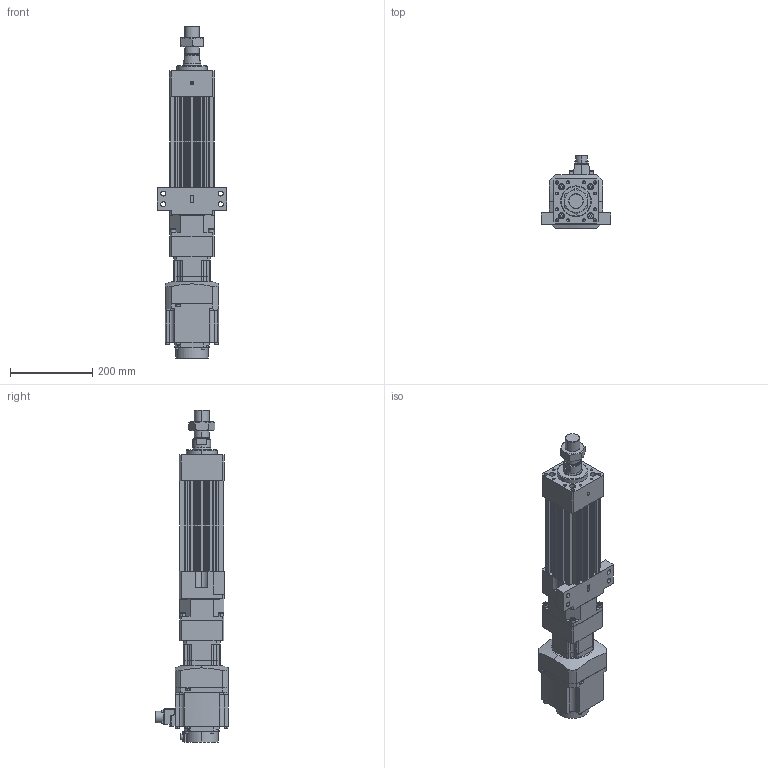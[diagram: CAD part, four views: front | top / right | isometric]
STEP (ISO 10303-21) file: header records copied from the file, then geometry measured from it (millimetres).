
FILE_DESCRIPTION (( 'STEP AP203' ), '1' );
FILE_NAME ('HES110NS(HS)-S050-W010G00-M-FFC.STEP', '2023-01-27T06:14:46', ( 'tms' ), ( '' ), 'SwSTEP 2.0', 'SolidWorks 2013', '' );
FILE_SCHEMA (( 'CONFIG_CONTROL_DESIGN' ));
Length unit declared in the file: millimetre
Products named in the file (8): AB0901; HES110 ROD M ST050; P0401301004; AB090-003[HG-SR102B]; HES110-S050-G090-FFC; HG-SR102; M36X1.5P; HES110NS(HS)-S050-W010G00-M-FFC
Assembly tree (7 placements, depth 3):
  HES110NS(HS)-S050-W010G00-M-FFC
    HES110-S050-G090-FFC
    HES110 ROD M ST050
    M36X1.5P
    AB090-003[HG-SR102B]
      AB0901
      P0401301004
    HG-SR102
Bounding box: 170 x 177.49 x 808.5 mm (x, y, z)
Volume: 5332617 mm3; surface area: 667994.4 mm2
Topology: 4 solids, 15 shells, 1217 faces, 3075 edges, 1984 vertices
Faces by surface type: plane 556, cylinder 547, cone 102, bspline 8, torus 4
Entity records: 38420 total; most frequent: CARTESIAN_POINT 7442, DIRECTION 6626, ORIENTED_EDGE 6054, EDGE_CURVE 3037, AXIS2_PLACEMENT_3D 2439, VERTEX_POINT 1984, VECTOR 1748, LINE 1748
